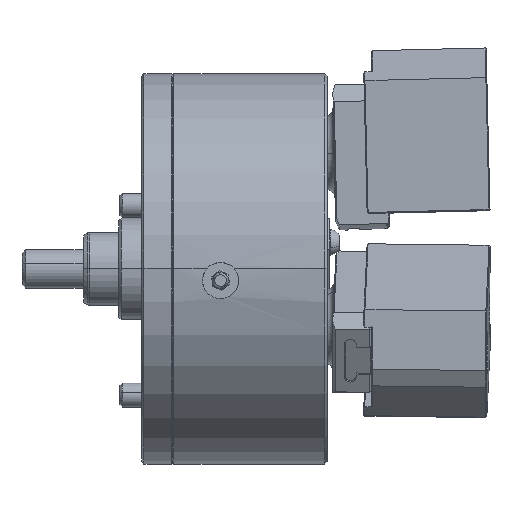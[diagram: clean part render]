
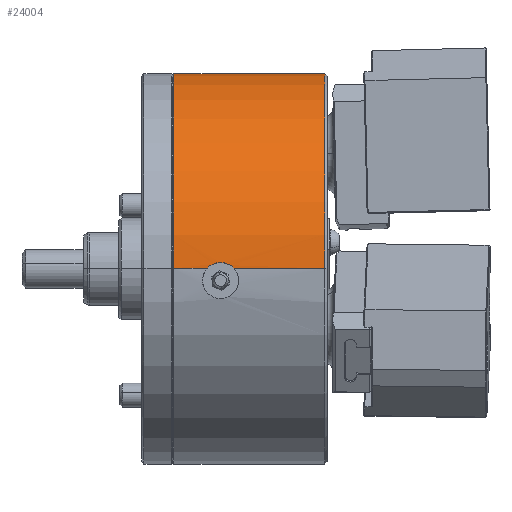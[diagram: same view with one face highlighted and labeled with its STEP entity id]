
A CAD part, top view. The second image highlights one B-rep face of the part: STEP entity #24004.
In plain terms, the highlighted cylindrical face has radius 81 mm (diameter 162 mm), a partial arc.
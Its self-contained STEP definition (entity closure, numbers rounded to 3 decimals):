
#1032 = CARTESIAN_POINT ( 'NONE',  ( -46.276, 2.212, 80.97 ) ) ;
#1213 = CARTESIAN_POINT ( 'NONE',  ( -39.354, 0.749, 80.997 ) ) ;
#1795 = CARTESIAN_POINT ( 'NONE',  ( -30.978, 0., 81. ) ) ;
#1970 = DIRECTION ( 'NONE',  ( -1., 0., 0. ) ) ;
#2136 = VERTEX_POINT ( 'NONE', #9944 ) ;
#4186 = EDGE_CURVE ( 'NONE', #24452, #15470, #37231, .T. ) ;
#4514 = CARTESIAN_POINT ( 'NONE',  ( -38.61, 0., 81. ) ) ;
#5128 = CARTESIAN_POINT ( 'NONE',  ( -45.254, 2.43, 80.964 ) ) ;
#5315 = CARTESIAN_POINT ( 'NONE',  ( -38.61, 0., 81. ) ) ;
#5560 = VECTOR ( 'NONE', #1970, 1000. ) ;
#6243 = DIRECTION ( 'NONE',  ( -1., 0., 0. ) ) ;
#7690 = CARTESIAN_POINT ( 'NONE',  ( -63.6, 0., 81. ) ) ;
#9237 = CARTESIAN_POINT ( 'NONE',  ( -44.464, 2.5, 80.961 ) ) ;
#9944 = CARTESIAN_POINT ( 'NONE',  ( -63.6, 0., -81. ) ) ;
#12628 = DIRECTION ( 'NONE',  ( -1., 0., 0. ) ) ;
#13003 = CARTESIAN_POINT ( 'NONE',  ( -49.441, 0.39, 81. ) ) ;
#13344 = CARTESIAN_POINT ( 'NONE',  ( -43.155, 2.445, 80.963 ) ) ;
#13399 = CARTESIAN_POINT ( 'NONE',  ( -1., 0., 81. ) ) ;
#15178 = LINE ( 'NONE', #29639, #31542 ) ;
#15470 = VERTEX_POINT ( 'NONE', #44964 ) ;
#17263 = CARTESIAN_POINT ( 'NONE',  ( -49.045, 0.749, 80.997 ) ) ;
#17444 = CARTESIAN_POINT ( 'NONE',  ( -42.128, 2.213, 80.97 ) ) ;
#18190 = FACE_OUTER_BOUND ( 'NONE', #30065, .T. ) ;
#18357 = CARTESIAN_POINT ( 'NONE',  ( -30.978, 0., -81. ) ) ;
#20238 = EDGE_CURVE ( 'NONE', #38032, #52931, #36815, .T. ) ;
#21343 = CARTESIAN_POINT ( 'NONE',  ( -47.746, 1.63, 80.984 ) ) ;
#21385 = ORIENTED_EDGE ( 'NONE', *, *, #43196, .F. ) ;
#21515 = CARTESIAN_POINT ( 'NONE',  ( -41.382, 1.955, 80.976 ) ) ;
#21985 = ORIENTED_EDGE ( 'NONE', *, *, #52104, .T. ) ;
#22499 = CARTESIAN_POINT ( 'NONE',  ( -30.978, 0., 0. ) ) ;
#23785 = CIRCLE ( 'NONE', #51236, 81. ) ;
#24004 = ADVANCED_FACE ( 'NONE', ( #18190 ), #50717, .T. ) ;
#24452 = VERTEX_POINT ( 'NONE', #13399 ) ;
#25448 = CARTESIAN_POINT ( 'NONE',  ( -46.775, 2.049, 80.974 ) ) ;
#25628 = CARTESIAN_POINT ( 'NONE',  ( -40.21, 1.373, 80.989 ) ) ;
#26508 = ORIENTED_EDGE ( 'NONE', *, *, #20238, .F. ) ;
#26622 = DIRECTION ( 'NONE',  ( -1., 0., 0. ) ) ;
#29548 = CARTESIAN_POINT ( 'NONE',  ( -45.771, 2.348, 80.966 ) ) ;
#29639 = CARTESIAN_POINT ( 'NONE',  ( -30.978, 0., 81. ) ) ;
#29731 = CARTESIAN_POINT ( 'NONE',  ( -38.963, 0.395, 81. ) ) ;
#30065 = EDGE_LOOP ( 'NONE', ( #35924, #50383, #21385, #26508, #21985, #31690 ) ) ;
#30694 = CARTESIAN_POINT ( 'NONE',  ( -63.6, 0., 0. ) ) ;
#30915 = AXIS2_PLACEMENT_3D ( 'NONE', #22499, #26622, #46966 ) ;
#31022 = EDGE_CURVE ( 'NONE', #24452, #34852, #15178, .T. ) ;
#31542 = VECTOR ( 'NONE', #49976, 1000. ) ;
#31690 = ORIENTED_EDGE ( 'NONE', *, *, #31022, .F. ) ;
#32099 = B_SPLINE_CURVE_WITH_KNOTS ( 'NONE', 3,
 ( #37566, #13003, #17263, #45786, #21343, #49879, #25448, #1032, #29548, #5128, #33661, #9237, #37734, #13344, #41855, #17444, #45957, #21515, #50071, #25628, #1213, #29731, #5315 ),
 .UNSPECIFIED., .F., .F.,
 ( 4, 2, 2, 2, 1, 2, 2, 2, 2, 2, 2, 4 ),
 ( 0.034, 0.036, 0.038, 0.038, 0.039, 0.04, 0.041, 0.042, 0.043, 0.044, 0.045, 0.047 ),
 .UNSPECIFIED. ) ;
#33661 = CARTESIAN_POINT ( 'NONE',  ( -44.73, 2.486, 80.962 ) ) ;
#34782 = DIRECTION ( 'NONE',  ( 0., 0., 1. ) ) ;
#34852 = VERTEX_POINT ( 'NONE', #4514 ) ;
#35451 = CARTESIAN_POINT ( 'NONE',  ( -49.79, 0., 81. ) ) ;
#35924 = ORIENTED_EDGE ( 'NONE', *, *, #4186, .T. ) ;
#36815 = LINE ( 'NONE', #1795, #5560 ) ;
#37015 = CARTESIAN_POINT ( 'NONE',  ( -1., 0., 0. ) ) ;
#37231 = CIRCLE ( 'NONE', #50364, 81. ) ;
#37566 = CARTESIAN_POINT ( 'NONE',  ( -49.79, 0., 81. ) ) ;
#37734 = CARTESIAN_POINT ( 'NONE',  ( -43.675, 2.5, 80.961 ) ) ;
#38032 = VERTEX_POINT ( 'NONE', #35451 ) ;
#41109 = DIRECTION ( 'NONE',  ( 0., 0., 1. ) ) ;
#41855 = CARTESIAN_POINT ( 'NONE',  ( -42.385, 2.282, 80.968 ) ) ;
#42762 = DIRECTION ( 'NONE',  ( -1., 0., 0. ) ) ;
#43196 = EDGE_CURVE ( 'NONE', #52931, #2136, #23785, .T. ) ;
#44964 = CARTESIAN_POINT ( 'NONE',  ( -1., 0., -81. ) ) ;
#45786 = CARTESIAN_POINT ( 'NONE',  ( -48.198, 1.367, 80.989 ) ) ;
#45957 = CARTESIAN_POINT ( 'NONE',  ( -41.626, 2.05, 80.974 ) ) ;
#46069 = EDGE_CURVE ( 'NONE', #15470, #2136, #47926, .T. ) ;
#46966 = DIRECTION ( 'NONE',  ( 0., 0., 1. ) ) ;
#47926 = LINE ( 'NONE', #18357, #49191 ) ;
#49191 = VECTOR ( 'NONE', #42762, 1000. ) ;
#49879 = CARTESIAN_POINT ( 'NONE',  ( -47.023, 1.953, 80.977 ) ) ;
#49976 = DIRECTION ( 'NONE',  ( -1., 0., 0. ) ) ;
#50071 = CARTESIAN_POINT ( 'NONE',  ( -40.665, 1.635, 80.984 ) ) ;
#50364 = AXIS2_PLACEMENT_3D ( 'NONE', #37015, #12628, #41109 ) ;
#50383 = ORIENTED_EDGE ( 'NONE', *, *, #46069, .T. ) ;
#50717 = CYLINDRICAL_SURFACE ( 'NONE', #30915, 81. ) ;
#51236 = AXIS2_PLACEMENT_3D ( 'NONE', #30694, #6243, #34782 ) ;
#52104 = EDGE_CURVE ( 'NONE', #38032, #34852, #32099, .T. ) ;
#52931 = VERTEX_POINT ( 'NONE', #7690 ) ;
